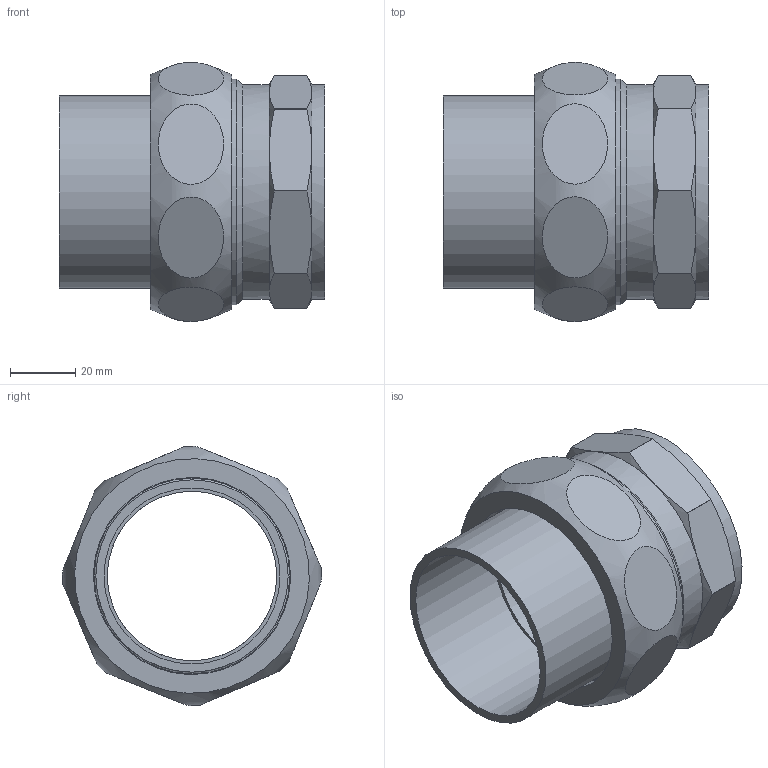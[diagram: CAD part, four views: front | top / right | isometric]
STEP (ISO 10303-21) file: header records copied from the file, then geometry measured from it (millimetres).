
FILE_DESCRIPTION(/* description */ (''),/* implementation_level */ '2;1');
FILE_NAME(/* name */ 'C:\Users\gomulka\Desktop\Nowy folder (2)\14340542.stp',/* time_stamp */ '2017-10-19T10:36:26+02:00',/* author */ ('gomulka'),/* organization */ (''),/* preprocessor_version */ 'ST-DEVELOPER v15.6',/* originating_system */ 'Autodesk Inventor 2015',/* authorisation */ '');
FILE_SCHEMA (('AUTOMOTIVE_DESIGN { 1 0 10303 214 3 1 1 }'));
Length unit declared in the file: millimetre
Products named in the file (4): 14381_54-238(2); 140380_2-238; 14374_238(2); Zespół3
Assembly tree (3 placements, depth 2):
  Zespół3
    14381_54-238(2)
    140380_2-238
    14374_238(2)
Bounding box: 81.61 x 79.5 x 79.5 mm (x, y, z)
Volume: 100000.8 mm3; surface area: 49736.3 mm2
Topology: 3 solids, 3 shells, 71 faces, 143 edges, 89 vertices
Faces by surface type: plane 26, cone 22, cylinder 20, torus 2, bspline 1
Full cylindrical faces by diameter (mm): 52 x2, 54 x1, 56.656 x1, 59 x1, 60.5 x1, 64.5 x1, 65.5 x1, 66 x2, 66.44 x1, 69.398 x1
Entity records: 2467 total; most frequent: CARTESIAN_POINT 969, DIRECTION 298, ORIENTED_EDGE 246, AXIS2_PLACEMENT_3D 141, EDGE_CURVE 123, EDGE_LOOP 108, VERTEX_POINT 89, FACE_OUTER_BOUND 71
